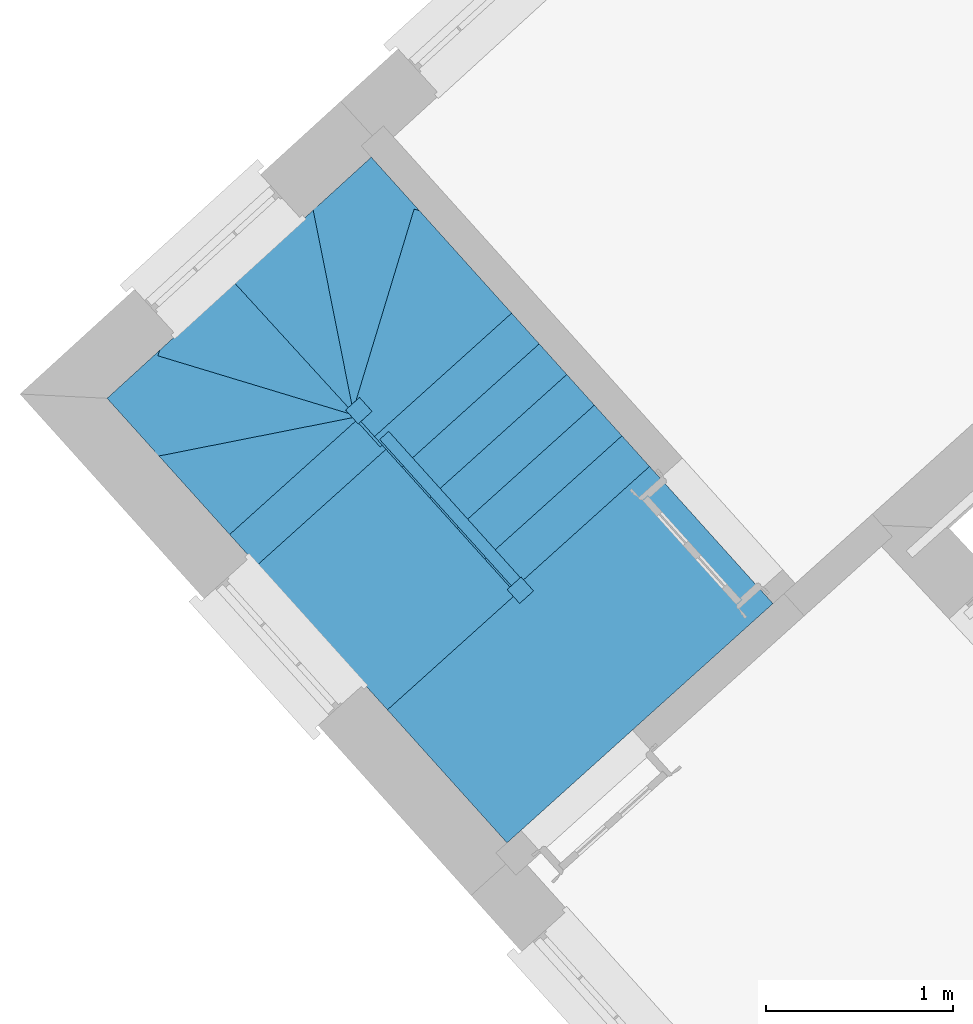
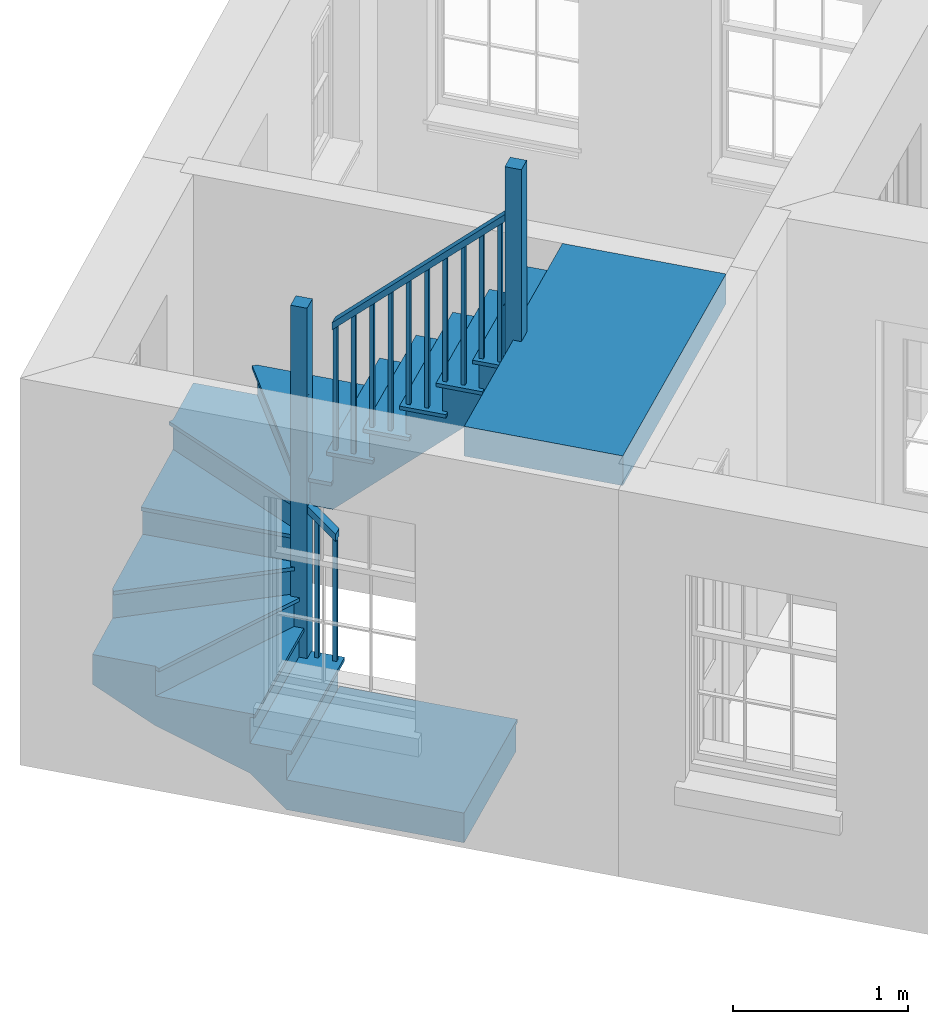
# One storey, part 7 of 7: 1 stair.
"""IFC4 building model written with IfcOpenShell, lengths in metres."""

import ifcopenshell
import ifcopenshell.guid

model = None  # the IFC model being written
_history = None  # IfcOwnerHistory: only IFC2X3 demands one
_inside = {}  # id of a spatial element -> (the spatial element, [elements in it])
_under = {}  # id of a project, library or spatial element -> (it, [spatial elements below it])
_declared = {}  # id of a project -> (the project, [libraries it declares])
_typed = {}  # id of a type object -> (the type object, [elements of that type])
_made_of = {}  # id of a material, layer set ... -> (it, [elements and type objects made of it])


def new_model(schema):
    """Start an empty IFC model of exactly this schema.

    Asked for "IFC4X3", IfcOpenShell would pick the latest addendum, in which some entities
    have other attributes; the version numbers below select the first issue.
    IFC2X3 requires an IfcOwnerHistory on every rooted entity: one is made here for all.
    """
    global model, _history
    if schema == "IFC4X3":
        model = ifcopenshell.file(schema_version=(4, 3, 0, 0))
    else:
        model = ifcopenshell.file(schema=schema)
    _inside.clear()
    _under.clear()
    _declared.clear()
    _typed.clear()
    _made_of.clear()
    _history = None
    if model.schema == "IFC2X3":
        org = make("IfcOrganization", Name="unknown")
        user = make(
            "IfcPersonAndOrganization",
            ThePerson=make("IfcPerson", FamilyName="unknown"),
            TheOrganization=org,
        )
        app = make(
            "IfcApplication",
            ApplicationDeveloper=org,
            Version="unknown",
            ApplicationFullName="unknown",
            ApplicationIdentifier="unknown",
        )
        _history = make(
            "IfcOwnerHistory",
            OwningUser=user,
            OwningApplication=app,
            ChangeAction="ADDED",
            CreationDate=0,
        )
    return model


def make(cls, **values):
    """One entity of the class cls with the attributes given. An attribute that is None is left unset."""
    return model.create_entity(
        cls, **{name: value for name, value in values.items() if value is not None}
    )


def rooted(cls, **values):
    """An entity with a GlobalId (a new one), such as an element, a storey or a relation."""
    return make(cls, GlobalId=ifcopenshell.guid.new(), OwnerHistory=_history, **values)


def si_unit(unit_type, name, prefix=None):
    """IfcSIUnit, for example si_unit("LENGTHUNIT", "METRE", prefix="MILLI")."""
    return make("IfcSIUnit", UnitType=unit_type, Prefix=prefix, Name=name)


def assignment(units):
    """IfcUnitAssignment: the units of a project."""
    return None if units is None else make("IfcUnitAssignment", Units=units)


def point(xyz):
    """IfcCartesianPoint."""
    return None if xyz is None else make("IfcCartesianPoint", Coordinates=xyz)


def direction(xyz):
    """IfcDirection."""
    return None if xyz is None else make("IfcDirection", DirectionRatios=xyz)


def frame(location, z_axis=None, x_axis=None):
    """IfcAxis2Placement3D, a coordinate frame: its origin and axes. An axis left out is left unset."""
    return make(
        "IfcAxis2Placement3D",
        Location=point(location),
        Axis=direction(z_axis),
        RefDirection=direction(x_axis),
    )


def origin():
    """The frame at (0, 0, 0) with its axes left unset."""
    return frame((0.0, 0.0, 0.0))


def origin_with_axes():
    """The frame at (0, 0, 0) with the z axis (0, 0, 1) and the x axis (1, 0, 0) written out."""
    return frame((0.0, 0.0, 0.0), z_axis=(0.0, 0.0, 1.0), x_axis=(1.0, 0.0, 0.0))


def place(relative_to, where):
    """IfcLocalPlacement: puts the frame where relative to a parent placement (None: the world)."""
    return make(
        "IfcLocalPlacement", PlacementRelTo=relative_to, RelativePlacement=where
    )


def context(
    kind, dimensions, precision=None, world=None, true_north=None, identifier=None
):
    """IfcGeometricRepresentationContext, for example the 3D "Model" context."""
    return make(
        "IfcGeometricRepresentationContext",
        ContextIdentifier=identifier,
        ContextType=kind,
        CoordinateSpaceDimension=dimensions,
        Precision=precision,
        WorldCoordinateSystem=world,
        TrueNorth=true_north,
    )


def subcontext(parent, identifier, kind, view, scale=None):
    """IfcGeometricRepresentationSubContext, for example "Body" below "Model"."""
    return make(
        "IfcGeometricRepresentationSubContext",
        ContextIdentifier=identifier,
        ContextType=kind,
        ParentContext=parent,
        TargetScale=scale,
        TargetView=view,
    )


def project(units=None, contexts=None):
    """IfcProject with its units and contexts."""
    return rooted(
        "IfcProject",
        Name="project",
        RepresentationContexts=contexts,
        UnitsInContext=assignment(units),
    )


def spatial(cls, under=None, at=None, **own):
    """A site, building, storey or space (cls), placed at a placement, below another one or the project."""
    s = rooted(cls, ObjectPlacement=at, **own)
    if under is not None:
        _under.setdefault(under.id(), (under, []))[1].append(s)
    return s


def faces_of(points, faces, orient=None, outer=None):
    """IfcFace entities. A face is a list of loops; a loop is a list of indices into points, from 0.

    orient and outer hold one flag for each loop. By default every Orientation is true, the
    first loop of a face is its IfcFaceOuterBound and the others are IfcFaceBound.
    """
    made = []
    for i, loops in enumerate(faces):
        bounds = []
        for j, loop in enumerate(loops):
            is_outer = j == 0 if outer is None else outer[i][j]
            bounds.append(
                make(
                    "IfcFaceOuterBound" if is_outer else "IfcFaceBound",
                    Bound=make("IfcPolyLoop", Polygon=[points[k] for k in loop]),
                    Orientation=True if orient is None else orient[i][j],
                )
            )
        made.append(make("IfcFace", Bounds=bounds))
    return made


def faceted_brep(points, faces, orient=None, outer=None, voids=None):
    """IfcFacetedBrep: a solid bounded by flat faces; with voids (closed shells), ...WithVoids."""
    shared = [point(p) for p in points]
    hull = make("IfcClosedShell", CfsFaces=faces_of(shared, faces, orient, outer))
    if voids is None:
        return make("IfcFacetedBrep", Outer=hull)
    return make(
        "IfcFacetedBrepWithVoids",
        Outer=hull,
        Voids=[
            make(cls, CfsFaces=faces_of(shared, fs, o, b)) for cls, fs, o, b in voids
        ],
    )


def shape(context_of_items, identifier, shape_type, items):
    """IfcShapeRepresentation: the items that make up one representation, for example the "Body"."""
    return make(
        "IfcShapeRepresentation",
        ContextOfItems=context_of_items,
        RepresentationIdentifier=identifier,
        RepresentationType=shape_type,
        Items=items,
    )


def made_of(thing, what):
    """Note that an element or type object is made of a material, layer set ...; save() writes the relation."""
    if what is not None:
        _made_of.setdefault(what.id(), (what, []))[1].append(thing)
    return thing


def element(
    cls,
    number,
    at=None,
    inside=None,
    cuts=None,
    type_object=None,
    material=None,
    context=None,
    identifier="Body",
    shape_type=None,
    held_by="IfcProductDefinitionShape",
    body=None,
    shapes=None,
    **own,
):
    """One element of the class cls, such as IfcWall. Its Tag is "e" and its number.

    at: its placement. inside: the storey or other place that contains it. cuts: it is an
    opening in that element (IfcRelVoidsElement). A single representation is given by context,
    identifier, shape_type and body (its items); several are given by shapes. held_by: the class
    of the entity that holds the representations. save() writes the other relations.
    """
    e = rooted(cls, Tag="e%d" % number, ObjectPlacement=at, **own)
    if body is not None:
        shapes = [shape(context, identifier, shape_type, body)]
    if shapes is not None:
        e.Representation = make(held_by, Representations=shapes)
    if inside is not None:
        _inside.setdefault(inside.id(), (inside, []))[1].append(e)
    if cuts is not None:
        rooted(
            "IfcRelVoidsElement", RelatingBuildingElement=cuts, RelatedOpeningElement=e
        )
    if type_object is not None:
        _typed.setdefault(type_object.id(), (type_object, []))[1].append(e)
    return made_of(e, material)


def aggregate(whole, parts):
    """IfcRelAggregates: a whole, such as a stair, and the parts it consists of."""
    return rooted("IfcRelAggregates", RelatingObject=whole, RelatedObjects=parts)


def save(model, path):
    """Write the relations noted so far, then the file.

    IfcRelAggregates (storeys below a building ...), IfcRelContainedInSpatialStructure (elements
    in a storey), IfcRelDefinesByType, IfcRelAssociatesMaterial and IfcRelDeclares: one each for
    every whole, place, type object, material and project.
    """
    for whole, parts in _under.values():
        aggregate(whole, parts)
    for where, things in _inside.values():
        rooted(
            "IfcRelContainedInSpatialStructure",
            RelatedElements=things,
            RelatingStructure=where,
        )
    for kind, things in _typed.values():
        rooted("IfcRelDefinesByType", RelatedObjects=things, RelatingType=kind)
    for what, things in _made_of.values():
        rooted("IfcRelAssociatesMaterial", RelatedObjects=things, RelatingMaterial=what)
    for by, libraries in _declared.values():
        rooted("IfcRelDeclares", RelatingContext=by, RelatedDefinitions=libraries)
    model.write(path)


model = new_model("IFC4")

# Units and contexts
model_context = context("Model", 3, world=origin_with_axes())
body_context = subcontext(model_context, "Body", "Model", "MODEL_VIEW")
ifc_project = project(units=[si_unit("PLANEANGLEUNIT", "RADIAN"), si_unit("MASSUNIT", "GRAM", prefix="KILO"), si_unit("FORCEUNIT", "NEWTON", prefix="KILO"), si_unit("LENGTHUNIT", "METRE"), si_unit("AREAUNIT", "SQUARE_METRE"), si_unit("VOLUMEUNIT", "CUBIC_METRE")], contexts=[model_context, model_context])

# Sites, building, storey
site_1_placement = place(None, origin_with_axes())
site_1 = spatial("IfcSite", under=ifc_project, at=site_1_placement, Name="Tamar")
site_2_placement = place(site_1_placement, origin_with_axes())
site_2 = spatial("IfcSite", under=site_1, at=site_2_placement, Name="Site plot-7", CompositionType="ELEMENT")
building_placement = place(None, origin_with_axes())
building = spatial("IfcBuilding", under=site_2, at=building_placement, Name="Building plot-7", CompositionType="ELEMENT")
storey_placement = place(None, frame((0.0, 0.0, 29.15), z_axis=(0.0, 0.0, 1.0), x_axis=(1.0, 0.0, 0.0)))
storey = spatial("IfcBuildingStorey", under=building, at=storey_placement, Name="plot-7 1", CompositionType="ELEMENT", Elevation=29.15)

# Stair
stair_placement = place(None, origin())
element("IfcStair", 1, at=stair_placement, inside=storey, Name="Stair", PredefinedType="NOTDEFINED", context=body_context, shape_type="Brep", body=[
    faceted_brep([(241.789682, 286.104978, 31.642308), (242.499166, 286.743323, 31.642308), (242.352018, 286.906869, 31.642308), (241.642534, 286.268525, 31.642308), (241.642534, 286.268525, 31.226923), (242.352018, 286.906869, 31.226923), (242.499166, 286.743323, 31.434615), (241.789682, 286.104978, 31.434615)], [[[0, 1, 2, 3]], [[4, 5, 6, 7]], [[7, 6, 1, 0]], [[1, 6, 5, 2]], [[5, 4, 3, 2]], [[3, 4, 7, 0]]]),
    faceted_brep([(242.352018, 286.906869, 31.617308), (242.331953, 286.929171, 31.617308), (242.352018, 286.906869, 31.642308), (242.519232, 286.721021, 31.617308), (242.499166, 286.743323, 31.617308), (242.499166, 286.743323, 31.642308), (242.331953, 286.929171, 31.642308), (242.519232, 286.721021, 31.642308), (241.600167, 286.270761, 31.642308), (241.642534, 286.268525, 31.642308), (241.642534, 286.268525, 31.617308), (241.600167, 286.270761, 31.617308), (241.787446, 286.062611, 31.642308), (241.789682, 286.104978, 31.642308), (241.789682, 286.104978, 31.617308), (241.787446, 286.062611, 31.617308)], [[[0, 1, 2]], [[3, 4, 5]], [[1, 6, 2]], [[7, 3, 5]], [[2, 6, 8, 9]], [[0, 2, 9, 10]], [[1, 0, 10, 11]], [[6, 1, 11, 8]], [[9, 8, 12, 13]], [[10, 9, 13, 14]], [[11, 10, 14, 15]], [[8, 11, 15, 12]], [[13, 12, 7, 5]], [[14, 13, 5, 4]], [[15, 14, 4, 3]], [[12, 15, 3, 7]]]),
    faceted_brep([(241.642534, 286.268525, 32.542308), (241.659255, 286.24994, 32.542308), (241.67784, 286.266662, 32.542308), (241.661119, 286.285246, 32.542308), (241.661119, 286.285246, 31.642308), (241.67784, 286.266662, 31.642308), (241.659255, 286.24994, 31.642308), (241.642534, 286.268525, 31.642308)], [[[0, 1, 2, 3]], [[4, 5, 6, 7]], [[7, 6, 1, 0]], [[6, 5, 2, 1]], [[5, 4, 3, 2]], [[4, 7, 0, 3]]]),
    faceted_brep([(241.716108, 286.186752, 32.646154), (241.732829, 286.168167, 32.646154), (241.751414, 286.184888, 32.646154), (241.734693, 286.203473, 32.646154), (241.734693, 286.203473, 31.642308), (241.751414, 286.184888, 31.642308), (241.732829, 286.168167, 31.642308), (241.716108, 286.186752, 31.642308)], [[[0, 1, 2, 3]], [[4, 5, 6, 7]], [[7, 6, 1, 0]], [[6, 5, 2, 1]], [[5, 4, 3, 2]], [[4, 7, 0, 3]]]),
    faceted_brep([(241.675987, 286.298624, 32.492308), (241.627666, 286.255148, 32.492308), (241.627666, 286.255148, 32.542308), (241.675987, 286.298624, 32.542308), (241.774814, 286.091601, 32.7), (241.823135, 286.135077, 32.7), (241.823135, 286.135077, 32.75), (241.774814, 286.091601, 32.75)], [[[0, 1, 2, 3]], [[4, 5, 6, 7]], [[0, 5, 4, 1]], [[3, 2, 7, 6]], [[0, 3, 6, 5]], [[2, 1, 4, 7]]]),
    faceted_brep([(241.642534, 286.268525, 31.434615), (242.352018, 286.906869, 31.434615), (242.204871, 287.070416, 31.434615), (241.495386, 286.432072, 31.434615), (241.495386, 286.432072, 31.019231), (242.204871, 287.070416, 31.019231), (242.352018, 286.906869, 31.226923), (241.642534, 286.268525, 31.226923)], [[[0, 1, 2, 3]], [[4, 5, 6, 7]], [[7, 6, 1, 0]], [[1, 6, 5, 2]], [[5, 4, 3, 2]], [[3, 4, 7, 0]]]),
    faceted_brep([(242.204871, 287.070416, 31.409615), (242.184805, 287.092718, 31.409615), (242.204871, 287.070416, 31.434615), (242.372084, 286.884567, 31.409615), (242.352018, 286.906869, 31.409615), (242.352018, 286.906869, 31.434615), (242.184805, 287.092718, 31.434615), (242.372084, 286.884567, 31.434615), (241.453019, 286.434308, 31.434615), (241.495386, 286.432072, 31.434615), (241.495386, 286.432072, 31.409615), (241.453019, 286.434308, 31.409615), (241.640298, 286.226158, 31.434615), (241.642534, 286.268525, 31.434615), (241.642534, 286.268525, 31.409615), (241.640298, 286.226158, 31.409615)], [[[0, 1, 2]], [[3, 4, 5]], [[1, 6, 2]], [[7, 3, 5]], [[2, 6, 8, 9]], [[0, 2, 9, 10]], [[1, 0, 10, 11]], [[6, 1, 11, 8]], [[9, 8, 12, 13]], [[10, 9, 13, 14]], [[11, 10, 14, 15]], [[8, 11, 15, 12]], [[13, 12, 7, 5]], [[14, 13, 5, 4]], [[15, 14, 4, 3]], [[12, 15, 3, 7]]]),
    faceted_brep([(241.495386, 286.432072, 32.334615), (241.512108, 286.413487, 32.334615), (241.530693, 286.430208, 32.334615), (241.513971, 286.448793, 32.334615), (241.513971, 286.448793, 31.434615), (241.530693, 286.430208, 31.434615), (241.512108, 286.413487, 31.434615), (241.495386, 286.432072, 31.434615)], [[[0, 1, 2, 3]], [[4, 5, 6, 7]], [[7, 6, 1, 0]], [[6, 5, 2, 1]], [[5, 4, 3, 2]], [[4, 7, 0, 3]]]),
    faceted_brep([(241.56896, 286.350298, 32.438462), (241.585682, 286.331714, 32.438462), (241.604266, 286.348435, 32.438462), (241.587545, 286.36702, 32.438462), (241.587545, 286.36702, 31.434615), (241.604266, 286.348435, 31.434615), (241.585682, 286.331714, 31.434615), (241.56896, 286.350298, 31.434615)], [[[0, 1, 2, 3]], [[4, 5, 6, 7]], [[7, 6, 1, 0]], [[6, 5, 2, 1]], [[5, 4, 3, 2]], [[4, 7, 0, 3]]]),
    faceted_brep([(241.528839, 286.46217, 32.284615), (241.480518, 286.418695, 32.284615), (241.480518, 286.418695, 32.334615), (241.528839, 286.46217, 32.334615), (241.627666, 286.255148, 32.492308), (241.675987, 286.298624, 32.492308), (241.675987, 286.298624, 32.542308), (241.627666, 286.255148, 32.542308)], [[[0, 1, 2, 3]], [[4, 5, 6, 7]], [[0, 5, 4, 1]], [[3, 2, 7, 6]], [[0, 3, 6, 5]], [[2, 1, 4, 7]]]),
    faceted_brep([(241.495386, 286.432072, 31.226923), (242.204871, 287.070416, 31.226923), (242.057723, 287.233963, 31.226923), (241.348239, 286.595619, 31.226923), (241.348239, 286.595619, 30.811538), (242.057723, 287.233963, 30.811538), (242.204871, 287.070416, 31.019231), (241.495386, 286.432072, 31.019231)], [[[0, 1, 2, 3]], [[4, 5, 6, 7]], [[7, 6, 1, 0]], [[1, 6, 5, 2]], [[5, 4, 3, 2]], [[3, 4, 7, 0]]]),
    faceted_brep([(242.057723, 287.233963, 31.201923), (242.037657, 287.256264, 31.201923), (242.057723, 287.233963, 31.226923), (242.224936, 287.048114, 31.201923), (242.204871, 287.070416, 31.201923), (242.204871, 287.070416, 31.226923), (242.037657, 287.256264, 31.226923), (242.224936, 287.048114, 31.226923), (241.305871, 286.597855, 31.226923), (241.348239, 286.595619, 31.226923), (241.348239, 286.595619, 31.201923), (241.305871, 286.597855, 31.201923), (241.49315, 286.389704, 31.226923), (241.495386, 286.432072, 31.226923), (241.495386, 286.432072, 31.201923), (241.49315, 286.389704, 31.201923)], [[[0, 1, 2]], [[3, 4, 5]], [[1, 6, 2]], [[7, 3, 5]], [[2, 6, 8, 9]], [[0, 2, 9, 10]], [[1, 0, 10, 11]], [[6, 1, 11, 8]], [[9, 8, 12, 13]], [[10, 9, 13, 14]], [[11, 10, 14, 15]], [[8, 11, 15, 12]], [[13, 12, 7, 5]], [[14, 13, 5, 4]], [[15, 14, 4, 3]], [[12, 15, 3, 7]]]),
    faceted_brep([(241.348239, 286.595619, 32.126923), (241.36496, 286.577034, 32.126923), (241.383545, 286.593755, 32.126923), (241.366823, 286.61234, 32.126923), (241.366823, 286.61234, 31.226923), (241.383545, 286.593755, 31.226923), (241.36496, 286.577034, 31.226923), (241.348239, 286.595619, 31.226923)], [[[0, 1, 2, 3]], [[4, 5, 6, 7]], [[7, 6, 1, 0]], [[6, 5, 2, 1]], [[5, 4, 3, 2]], [[4, 7, 0, 3]]]),
    faceted_brep([(241.421812, 286.513845, 32.230769), (241.438534, 286.49526, 32.230769), (241.457119, 286.511982, 32.230769), (241.440397, 286.530567, 32.230769), (241.440397, 286.530567, 31.226923), (241.457119, 286.511982, 31.226923), (241.438534, 286.49526, 31.226923), (241.421812, 286.513845, 31.226923)], [[[0, 1, 2, 3]], [[4, 5, 6, 7]], [[7, 6, 1, 0]], [[6, 5, 2, 1]], [[5, 4, 3, 2]], [[4, 7, 0, 3]]]),
    faceted_brep([(241.381691, 286.625717, 32.076923), (241.333371, 286.582241, 32.076923), (241.333371, 286.582241, 32.126923), (241.381691, 286.625717, 32.126923), (241.480518, 286.418695, 32.284615), (241.528839, 286.46217, 32.284615), (241.528839, 286.46217, 32.334615), (241.480518, 286.418695, 32.334615)], [[[0, 1, 2, 3]], [[4, 5, 6, 7]], [[0, 5, 4, 1]], [[3, 2, 7, 6]], [[0, 3, 6, 5]], [[2, 1, 4, 7]]]),
    faceted_brep([(241.348239, 286.595619, 31.019231), (242.057723, 287.233963, 31.019231), (241.910575, 287.397509, 31.019231), (241.201091, 286.759165, 31.019231), (241.201091, 286.759165, 30.603846), (241.910575, 287.397509, 30.603846), (242.057723, 287.233963, 30.811538), (241.348239, 286.595619, 30.811538)], [[[0, 1, 2, 3]], [[4, 5, 6, 7]], [[7, 6, 1, 0]], [[1, 6, 5, 2]], [[5, 4, 3, 2]], [[3, 4, 7, 0]]]),
    faceted_brep([(241.890509, 287.419811, 30.994231), (241.890509, 287.419811, 31.019231), (241.910575, 287.397509, 30.994231), (242.077788, 287.211661, 31.019231), (242.077788, 287.211661, 30.994231), (242.057723, 287.233963, 30.994231), (241.910575, 287.397509, 31.019231), (242.057723, 287.233963, 31.019231), (241.158723, 286.761401, 31.019231), (241.201091, 286.759165, 31.019231), (241.201091, 286.759165, 30.994231), (241.158723, 286.761401, 30.994231), (241.346002, 286.553251, 31.019231), (241.348239, 286.595619, 31.019231), (241.348239, 286.595619, 30.994231), (241.346002, 286.553251, 30.994231)], [[[0, 1, 2]], [[3, 4, 5]], [[2, 1, 6]], [[3, 5, 7]], [[6, 1, 8, 9]], [[2, 6, 9, 10]], [[0, 2, 10, 11]], [[1, 0, 11, 8]], [[9, 8, 12, 13]], [[10, 9, 13, 14]], [[11, 10, 14, 15]], [[8, 11, 15, 12]], [[13, 12, 3, 7]], [[14, 13, 7, 5]], [[15, 14, 5, 4]], [[12, 15, 4, 3]]]),
    faceted_brep([(241.201091, 286.759165, 31.919231), (241.217812, 286.74058, 31.919231), (241.236397, 286.757302, 31.919231), (241.219676, 286.775887, 31.919231), (241.219676, 286.775887, 31.019231), (241.236397, 286.757302, 31.019231), (241.217812, 286.74058, 31.019231), (241.201091, 286.759165, 31.019231)], [[[0, 1, 2, 3]], [[4, 5, 6, 7]], [[7, 6, 1, 0]], [[6, 5, 2, 1]], [[5, 4, 3, 2]], [[4, 7, 0, 3]]]),
    faceted_brep([(241.274665, 286.677392, 32.023077), (241.291386, 286.658807, 32.023077), (241.309971, 286.675528, 32.023077), (241.293249, 286.694113, 32.023077), (241.293249, 286.694113, 31.019231), (241.309971, 286.675528, 31.019231), (241.291386, 286.658807, 31.019231), (241.274665, 286.677392, 31.019231)], [[[0, 1, 2, 3]], [[4, 5, 6, 7]], [[7, 6, 1, 0]], [[6, 5, 2, 1]], [[5, 4, 3, 2]], [[4, 7, 0, 3]]]),
    faceted_brep([(241.234543, 286.789264, 31.869231), (241.186223, 286.745788, 31.869231), (241.186223, 286.745788, 31.919231), (241.234543, 286.789264, 31.919231), (241.333371, 286.582241, 32.076923), (241.381691, 286.625717, 32.076923), (241.381691, 286.625717, 32.126923), (241.333371, 286.582241, 32.126923)], [[[0, 1, 2, 3]], [[4, 5, 6, 7]], [[0, 5, 4, 1]], [[3, 2, 7, 6]], [[0, 3, 6, 5]], [[2, 1, 4, 7]]]),
    faceted_brep([(241.201091, 286.759165, 30.811538), (241.910575, 287.397509, 30.811538), (241.763427, 287.561056, 30.811538), (241.053943, 286.922712, 30.811538), (241.053943, 286.922712, 30.396154), (241.763427, 287.561056, 30.396154), (241.910575, 287.397509, 30.603846), (241.201091, 286.759165, 30.603846)], [[[0, 1, 2, 3]], [[4, 5, 6, 7]], [[7, 6, 1, 0]], [[1, 6, 5, 2]], [[5, 4, 3, 2]], [[3, 4, 7, 0]]]),
    faceted_brep([(241.743362, 287.583358, 30.786538), (241.743362, 287.583358, 30.811538), (241.763427, 287.561056, 30.786538), (241.930641, 287.375207, 30.811538), (241.930641, 287.375207, 30.786538), (241.910575, 287.397509, 30.786538), (241.763427, 287.561056, 30.811538), (241.910575, 287.397509, 30.811538), (241.011575, 286.924948, 30.811538), (241.053943, 286.922712, 30.811538), (241.053943, 286.922712, 30.786538), (241.011575, 286.924948, 30.786538), (241.198854, 286.716798, 30.811538), (241.201091, 286.759165, 30.811538), (241.201091, 286.759165, 30.786538), (241.198854, 286.716798, 30.786538)], [[[0, 1, 2]], [[3, 4, 5]], [[2, 1, 6]], [[3, 5, 7]], [[6, 1, 8, 9]], [[2, 6, 9, 10]], [[0, 2, 10, 11]], [[1, 0, 11, 8]], [[9, 8, 12, 13]], [[10, 9, 13, 14]], [[11, 10, 14, 15]], [[8, 11, 15, 12]], [[13, 12, 3, 7]], [[14, 13, 7, 5]], [[15, 14, 5, 4]], [[12, 15, 4, 3]]]),
    faceted_brep([(241.053943, 286.922712, 31.711538), (241.070664, 286.904127, 31.711538), (241.089249, 286.920848, 31.711538), (241.072528, 286.939433, 31.711538), (241.072528, 286.939433, 30.811538), (241.089249, 286.920848, 30.811538), (241.070664, 286.904127, 30.811538), (241.053943, 286.922712, 30.811538)], [[[0, 1, 2, 3]], [[4, 5, 6, 7]], [[7, 6, 1, 0]], [[6, 5, 2, 1]], [[5, 4, 3, 2]], [[4, 7, 0, 3]]]),
    faceted_brep([(241.127517, 286.840939, 31.815385), (241.144238, 286.822354, 31.815385), (241.162823, 286.839075, 31.815385), (241.146102, 286.85766, 31.815385), (241.146102, 286.85766, 30.811538), (241.162823, 286.839075, 30.811538), (241.144238, 286.822354, 30.811538), (241.127517, 286.840939, 30.811538)], [[[0, 1, 2, 3]], [[4, 5, 6, 7]], [[7, 6, 1, 0]], [[6, 5, 2, 1]], [[5, 4, 3, 2]], [[4, 7, 0, 3]]]),
    faceted_brep([(241.087396, 286.95281, 31.661538), (241.039075, 286.909335, 31.661538), (241.039075, 286.909335, 31.711538), (241.087396, 286.95281, 31.711538), (241.186223, 286.745788, 31.869231), (241.234543, 286.789264, 31.869231), (241.234543, 286.789264, 31.919231), (241.186223, 286.745788, 31.919231)], [[[0, 1, 2, 3]], [[4, 5, 6, 7]], [[0, 5, 4, 1]], [[3, 2, 7, 6]], [[0, 3, 6, 5]], [[2, 1, 4, 7]]]),
    faceted_brep([(241.053943, 286.922712, 30.603846), (241.763427, 287.561056, 30.603846), (241.637337, 287.701198, 30.603846), (240.927853, 287.062854, 30.603846), (240.927853, 287.062854, 30.396154), (241.637337, 287.701198, 30.396154), (241.763427, 287.561056, 30.396154), (241.053943, 286.922712, 30.396154)], [[[0, 1, 2, 3]], [[4, 5, 6, 7]], [[7, 6, 1, 0]], [[6, 5, 2, 1]], [[5, 4, 3, 2]], [[4, 7, 0, 3]]]),
    faceted_brep([(240.927853, 287.062854, 30.578846), (240.905551, 287.042788, 30.578846), (240.927853, 287.062854, 30.603846), (241.031641, 286.902646, 30.578846), (241.053943, 286.922712, 30.578846), (241.053943, 286.922712, 30.603846), (240.905551, 287.042788, 30.603846), (241.031641, 286.902646, 30.603846)], [[[0, 1, 2]], [[3, 4, 5]], [[1, 6, 2]], [[7, 3, 5]], [[2, 6, 7, 5]], [[0, 2, 5, 4]], [[1, 0, 4, 3]], [[6, 1, 3, 7]]]),
    faceted_brep([(240.857241, 287.066581, 31.803846), (240.924126, 286.992241, 31.803846), (240.998465, 287.059127, 31.803846), (240.93158, 287.133466, 31.803846), (240.93158, 287.133466, 30.603846), (240.998465, 287.059127, 30.603846), (240.924126, 286.992241, 30.603846), (240.857241, 287.066581, 30.603846)], [[[0, 1, 2, 3]], [[4, 5, 6, 7]], [[7, 6, 1, 0]], [[6, 5, 2, 1]], [[5, 4, 3, 2]], [[4, 7, 0, 3]]]),
    faceted_brep([(241.637337, 287.701198, 30.603846), (241.251594, 288.129931, 30.603846), (240.927853, 287.062854, 30.603846), (240.927853, 287.062854, 30.188462), (241.251594, 288.129931, 30.188462), (241.637337, 287.701198, 30.396154)], [[[0, 1, 2]], [[3, 4, 5]], [[0, 5, 4, 1]], [[4, 3, 2, 1]], [[2, 3, 5, 0]]]),
    faceted_brep([(241.222886, 288.13864, 30.578846), (241.222886, 288.13864, 30.603846), (241.251594, 288.129931, 30.578846), (240.899145, 287.071563, 30.603846), (240.899145, 287.071563, 30.578846), (240.927853, 287.062854, 30.578846), (241.251594, 288.129931, 30.603846), (240.927853, 287.062854, 30.603846)], [[[0, 1, 2]], [[3, 4, 5]], [[2, 1, 6]], [[3, 5, 7]], [[6, 1, 3, 7]], [[2, 6, 7, 5]], [[0, 2, 5, 4]], [[1, 0, 4, 3]]]),
    faceted_brep([(241.251594, 288.129931, 30.396154), (240.994431, 288.415752, 30.396154), (240.710448, 288.156561, 30.396154), (240.927853, 287.062854, 30.396154), (240.927853, 287.062854, 29.980769), (240.710448, 288.156561, 29.980769), (240.994431, 288.415752, 30.188462), (241.251594, 288.129931, 30.188462)], [[[0, 1, 2, 3]], [[4, 5, 6, 7]], [[7, 6, 1, 0]], [[1, 6, 5, 2]], [[5, 4, 3, 2]], [[3, 4, 7, 0]]]),
    faceted_brep([(240.681024, 288.150712, 30.371154), (240.681024, 288.150712, 30.396154), (240.710448, 288.156561, 30.371154), (240.898429, 287.057005, 30.396154), (240.898429, 287.057005, 30.371154), (240.927853, 287.062854, 30.371154), (240.710448, 288.156561, 30.396154), (240.927853, 287.062854, 30.396154)], [[[0, 1, 2]], [[3, 4, 5]], [[2, 1, 6]], [[3, 5, 7]], [[6, 1, 3, 7]], [[2, 6, 7, 5]], [[0, 2, 5, 4]], [[1, 0, 4, 3]]]),
    faceted_brep([(240.710448, 288.156561, 30.188462), (240.284473, 287.767775, 30.188462), (240.927853, 287.062854, 30.188462), (240.927853, 287.062854, 29.773077), (240.284473, 287.767775, 29.773077), (240.710448, 288.156561, 29.980769)], [[[0, 1, 2]], [[3, 4, 5]], [[0, 5, 4, 1]], [[4, 3, 2, 1]], [[2, 3, 5, 0]]]),
    faceted_brep([(240.284473, 287.767775, 30.163462), (240.262315, 287.747551, 30.163462), (240.284473, 287.767775, 30.188462), (240.905695, 287.04263, 30.163462), (240.927853, 287.062854, 30.163462), (240.927853, 287.062854, 30.188462), (240.262315, 287.747551, 30.188462), (240.905695, 287.04263, 30.188462)], [[[0, 1, 2]], [[3, 4, 5]], [[1, 6, 2]], [[7, 3, 5]], [[2, 6, 7, 5]], [[0, 2, 5, 4]], [[1, 0, 4, 3]], [[6, 1, 3, 7]]]),
    faceted_brep([(240.857241, 287.066581, 30.603846), (240.924126, 286.992241, 30.603846), (240.998465, 287.059127, 30.603846), (240.93158, 287.133466, 30.603846), (240.93158, 287.133466, 29.688462), (240.998465, 287.059127, 29.688462), (240.924126, 286.992241, 29.688462), (240.857241, 287.066581, 29.688462)], [[[0, 1, 2, 3]], [[4, 5, 6, 7]], [[7, 6, 1, 0]], [[6, 5, 2, 1]], [[5, 4, 3, 2]], [[4, 7, 0, 3]]]),
    faceted_brep([(240.927853, 287.062854, 29.773077), (240.284473, 287.767775, 29.773077), (240.284473, 287.767775, 29.980769), (240.927853, 287.062854, 29.980769)], [[[0, 1, 2, 3]], [[1, 0, 3, 2]]]),
    faceted_brep([(240.927853, 287.062854, 29.955769), (240.95043, 287.043099, 29.955769), (240.927853, 287.062854, 29.980769), (240.95043, 287.043099, 29.980769)], [[[0, 1, 2]], [[1, 0, 2]], [[1, 3, 2]], [[3, 1, 2]]]),
    faceted_brep([(240.924629, 286.992217, 31.180769), (240.99849, 287.05963, 31.180769), (240.931077, 287.133491, 31.180769), (240.857216, 287.066078, 31.180769), (240.857216, 287.066078, 29.980769), (240.931077, 287.133491, 29.980769), (240.99849, 287.05963, 29.980769), (240.924629, 286.992217, 29.980769)], [[[0, 1, 2, 3]], [[4, 5, 6, 7]], [[7, 6, 1, 0]], [[6, 5, 2, 1]], [[5, 4, 3, 2]], [[4, 7, 0, 3]]]),
    faceted_brep([(240.284473, 287.767775, 29.980769), (239.864522, 287.384486, 29.980769), (240.927853, 287.062854, 29.980769), (240.927853, 287.062854, 29.565385), (239.864522, 287.384486, 29.565385), (240.284473, 287.767775, 29.773077)], [[[0, 1, 2]], [[3, 4, 5]], [[0, 5, 4, 1]], [[4, 3, 2, 1]], [[2, 3, 5, 0]]]),
    faceted_brep([(239.864522, 287.384486, 29.955769), (239.855836, 287.35577, 29.955769), (239.864522, 287.384486, 29.980769), (240.919167, 287.034139, 29.955769), (240.927853, 287.062854, 29.955769), (240.927853, 287.062854, 29.980769), (239.855836, 287.35577, 29.980769), (240.919167, 287.034139, 29.980769)], [[[0, 1, 2]], [[3, 4, 5]], [[1, 6, 2]], [[7, 3, 5]], [[2, 6, 7, 5]], [[0, 2, 5, 4]], [[1, 0, 4, 3]], [[6, 1, 3, 7]]]),
    faceted_brep([(239.864522, 287.384486, 29.773077), (239.584554, 287.12896, 29.773077), (239.83808, 286.84718, 29.773077), (240.927853, 287.062854, 29.773077), (240.927853, 287.062854, 29.357692), (239.83808, 286.84718, 29.357692), (239.584554, 287.12896, 29.565385), (239.864522, 287.384486, 29.565385)], [[[0, 1, 2, 3]], [[4, 5, 6, 7]], [[7, 6, 1, 0]], [[1, 6, 5, 2]], [[5, 4, 3, 2]], [[3, 4, 7, 0]]]),
    faceted_brep([(239.83808, 286.84718, 29.748077), (239.843904, 286.81775, 29.748077), (239.83808, 286.84718, 29.773077), (240.933677, 287.033425, 29.748077), (240.927853, 287.062854, 29.748077), (240.927853, 287.062854, 29.773077), (239.843904, 286.81775, 29.773077), (240.933677, 287.033425, 29.773077)], [[[0, 1, 2]], [[3, 4, 5]], [[1, 6, 2]], [[7, 3, 5]], [[2, 6, 7, 5]], [[0, 2, 5, 4]], [[1, 0, 4, 3]], [[6, 1, 3, 7]]]),
    faceted_brep([(239.83808, 286.84718, 29.565385), (240.218369, 286.42451, 29.565385), (240.927853, 287.062854, 29.565385), (240.927853, 287.062854, 29.15), (240.218369, 286.42451, 29.15), (239.83808, 286.84718, 29.357692)], [[[0, 1, 2]], [[3, 4, 5]], [[0, 5, 4, 1]], [[4, 3, 2, 1]], [[2, 3, 5, 0]]]),
    faceted_brep([(240.218369, 286.42451, 29.540385), (240.238434, 286.402208, 29.540385), (240.218369, 286.42451, 29.565385), (240.947919, 287.040552, 29.540385), (240.927853, 287.062854, 29.540385), (240.927853, 287.062854, 29.565385), (240.238434, 286.402208, 29.565385), (240.947919, 287.040552, 29.565385)], [[[0, 1, 2]], [[3, 4, 5]], [[1, 6, 2]], [[7, 3, 5]], [[2, 6, 7, 5]], [[0, 2, 5, 4]], [[1, 0, 4, 3]], [[6, 1, 3, 7]]]),
    faceted_brep([(240.924629, 286.992217, 29.980769), (240.99849, 287.05963, 29.980769), (240.931077, 287.133491, 29.980769), (240.857216, 287.066078, 29.980769), (240.857216, 287.066078, 29.065385), (240.931077, 287.133491, 29.065385), (240.99849, 287.05963, 29.065385), (240.924629, 286.992217, 29.065385)], [[[0, 1, 2, 3]], [[4, 5, 6, 7]], [[7, 6, 1, 0]], [[6, 5, 2, 1]], [[5, 4, 3, 2]], [[4, 7, 0, 3]]]),
    faceted_brep([(240.927853, 287.062854, 29.357692), (240.218369, 286.42451, 29.357692), (240.365517, 286.260963, 29.357692), (241.075001, 286.899307, 29.357692), (241.075001, 286.899307, 28.942308), (240.365517, 286.260963, 28.942308), (240.218369, 286.42451, 29.15), (240.927853, 287.062854, 29.15)], [[[0, 1, 2, 3]], [[4, 5, 6, 7]], [[7, 6, 1, 0]], [[1, 6, 5, 2]], [[5, 4, 3, 2]], [[3, 4, 7, 0]]]),
    faceted_brep([(240.385582, 286.238661, 29.332692), (240.385582, 286.238661, 29.357692), (240.365517, 286.260963, 29.332692), (240.198303, 286.446812, 29.357692), (240.198303, 286.446812, 29.332692), (240.218369, 286.42451, 29.332692), (240.365517, 286.260963, 29.357692), (240.218369, 286.42451, 29.357692), (241.117368, 286.897071, 29.357692), (241.075001, 286.899307, 29.357692), (241.075001, 286.899307, 29.332692), (241.117368, 286.897071, 29.332692), (240.930089, 287.105221, 29.357692), (240.927853, 287.062854, 29.357692), (240.927853, 287.062854, 29.332692), (240.930089, 287.105221, 29.332692)], [[[0, 1, 2]], [[3, 4, 5]], [[2, 1, 6]], [[3, 5, 7]], [[6, 1, 8, 9]], [[2, 6, 9, 10]], [[0, 2, 10, 11]], [[1, 0, 11, 8]], [[9, 8, 12, 13]], [[10, 9, 13, 14]], [[11, 10, 14, 15]], [[8, 11, 15, 12]], [[13, 12, 3, 7]], [[14, 13, 7, 5]], [[15, 14, 5, 4]], [[12, 15, 4, 3]]]),
    faceted_brep([(241.075001, 286.899307, 30.257692), (241.05828, 286.917892, 30.257692), (241.039695, 286.901171, 30.257692), (241.056416, 286.882586, 30.257692), (241.056416, 286.882586, 29.357692), (241.039695, 286.901171, 29.357692), (241.05828, 286.917892, 29.357692), (241.075001, 286.899307, 29.357692)], [[[0, 1, 2, 3]], [[4, 5, 6, 7]], [[7, 6, 1, 0]], [[6, 5, 2, 1]], [[5, 4, 3, 2]], [[4, 7, 0, 3]]]),
    faceted_brep([(241.001427, 286.98108, 30.361538), (240.984706, 286.999665, 30.361538), (240.966121, 286.982944, 30.361538), (240.982842, 286.964359, 30.361538), (240.982842, 286.964359, 29.357692), (240.966121, 286.982944, 29.357692), (240.984706, 286.999665, 29.357692), (241.001427, 286.98108, 29.357692)], [[[0, 1, 2, 3]], [[4, 5, 6, 7]], [[7, 6, 1, 0]], [[6, 5, 2, 1]], [[5, 4, 3, 2]], [[4, 7, 0, 3]]]),
    faceted_brep([(241.041548, 286.869209, 30.207692), (241.089869, 286.912684, 30.207692), (241.089869, 286.912684, 30.257692), (241.041548, 286.869209, 30.257692), (240.942721, 287.076231, 30.415385), (240.8944, 287.032755, 30.415385), (240.8944, 287.032755, 30.465385), (240.942721, 287.076231, 30.465385)], [[[0, 1, 2, 3]], [[4, 5, 6, 7]], [[0, 5, 4, 1]], [[3, 2, 7, 6]], [[0, 3, 6, 5]], [[2, 1, 4, 7]]]),
    faceted_brep([(241.075001, 286.899307, 29.15), (240.365517, 286.260963, 29.15), (241.080198, 285.466634, 29.15), (241.789682, 286.104978, 29.15), (241.789682, 286.104978, 28.942308), (241.080198, 285.466634, 28.942308), (240.365517, 286.260963, 28.942308), (241.075001, 286.899307, 28.942308)], [[[0, 1, 2, 3]], [[4, 5, 6, 7]], [[7, 6, 1, 0]], [[6, 5, 2, 1]], [[5, 4, 3, 2]], [[4, 7, 0, 3]]]),
    faceted_brep([(241.811984, 286.125044, 29.125), (241.811984, 286.125044, 29.15), (241.789682, 286.104978, 29.125), (241.097303, 286.919373, 29.15), (241.097303, 286.919373, 29.125), (241.075001, 286.899307, 29.125), (241.789682, 286.104978, 29.15), (241.075001, 286.899307, 29.15)], [[[0, 1, 2]], [[3, 4, 5]], [[2, 1, 6]], [[3, 5, 7]], [[6, 1, 3, 7]], [[2, 6, 7, 5]], [[0, 2, 5, 4]], [[1, 0, 4, 3]]]),
    faceted_brep([(241.860294, 286.101251, 33.05), (241.793409, 286.175591, 33.05), (241.71907, 286.108705, 33.05), (241.785955, 286.034366, 33.05), (241.785955, 286.034366, 31.85), (241.71907, 286.108705, 31.85), (241.793409, 286.175591, 31.85), (241.860294, 286.101251, 31.85)], [[[0, 1, 2, 3]], [[4, 5, 6, 7]], [[7, 6, 1, 0]], [[6, 5, 2, 1]], [[5, 4, 3, 2]], [[4, 7, 0, 3]]]),
    faceted_brep([(241.789682, 286.104978, 31.85), (241.080198, 285.466634, 31.85), (241.718542, 284.75715, 31.85), (242.428026, 285.395494, 31.85), (242.428026, 285.395494, 31.642308), (241.718542, 284.75715, 31.642308), (241.080198, 285.466634, 31.642308), (241.789682, 286.104978, 31.642308)], [[[0, 1, 2, 3]], [[4, 5, 6, 7]], [[7, 6, 1, 0]], [[6, 5, 2, 1]], [[5, 4, 3, 2]], [[4, 7, 0, 3]]]),
    faceted_brep([(242.428026, 285.395494, 31.825), (242.450328, 285.41556, 31.825), (242.428026, 285.395494, 31.85), (241.811984, 286.125044, 31.825), (241.789682, 286.104978, 31.825), (241.789682, 286.104978, 31.85), (242.450328, 285.41556, 31.85), (241.811984, 286.125044, 31.85)], [[[0, 1, 2]], [[3, 4, 5]], [[1, 6, 2]], [[7, 3, 5]], [[2, 6, 7, 5]], [[0, 2, 5, 4]], [[1, 0, 4, 3]], [[6, 1, 3, 7]]]),
    faceted_brep([(241.860294, 286.101251, 31.85), (241.793409, 286.175591, 31.85), (241.71907, 286.108705, 31.85), (241.785955, 286.034366, 31.85), (241.785955, 286.034366, 31.35), (241.71907, 286.108705, 31.35), (241.793409, 286.175591, 31.35), (241.860294, 286.101251, 31.35)], [[[0, 1, 2, 3]], [[4, 5, 6, 7]], [[7, 6, 1, 0]], [[6, 5, 2, 1]], [[5, 4, 3, 2]], [[4, 7, 0, 3]]]),
    faceted_brep([(241.789682, 286.104978, 31.642308), (242.428026, 285.395494, 31.642308), (242.428026, 285.395494, 31.85), (241.789682, 286.104978, 31.85)], [[[0, 1, 2, 3]], [[1, 0, 3, 2]]]),
    faceted_brep([(241.771391, 286.128757, 31.825), (241.771391, 286.128757, 31.85), (241.789682, 286.104978, 31.825), (241.789682, 286.104978, 31.85)], [[[0, 1, 2]], [[1, 0, 2]], [[2, 1, 3]], [[1, 2, 3]]]),
    faceted_brep([(241.793409, 286.175591, 33.05), (241.71907, 286.108705, 33.05), (241.785955, 286.034366, 33.05), (241.860294, 286.101251, 33.05), (241.860294, 286.101251, 31.85), (241.785955, 286.034366, 31.85), (241.71907, 286.108705, 31.85), (241.793409, 286.175591, 31.85)], [[[0, 1, 2, 3]], [[4, 5, 6, 7]], [[7, 6, 1, 0]], [[6, 5, 2, 1]], [[5, 4, 3, 2]], [[4, 7, 0, 3]]]),
    faceted_brep([(241.789682, 286.104978, 31.85), (242.428026, 285.395494, 31.85), (243.13751, 286.033838, 31.85), (242.499166, 286.743323, 31.85), (242.499166, 286.743323, 31.642308), (243.13751, 286.033838, 31.642308), (242.428026, 285.395494, 31.642308), (241.789682, 286.104978, 31.642308)], [[[0, 1, 2, 3]], [[4, 5, 6, 7]], [[7, 6, 1, 0]], [[6, 5, 2, 1]], [[5, 4, 3, 2]], [[4, 7, 0, 3]]]),
    faceted_brep([(242.479101, 286.765624, 31.825), (242.479101, 286.765624, 31.85), (242.499166, 286.743323, 31.825), (241.769616, 286.12728, 31.85), (241.769616, 286.12728, 31.825), (241.789682, 286.104978, 31.825), (242.499166, 286.743323, 31.85), (241.789682, 286.104978, 31.85)], [[[0, 1, 2]], [[3, 4, 5]], [[2, 1, 6]], [[3, 5, 7]], [[6, 1, 3, 7]], [[2, 6, 7, 5]], [[0, 2, 5, 4]], [[1, 0, 4, 3]]]),
    faceted_brep([(241.793409, 286.175591, 31.85), (241.71907, 286.108705, 31.85), (241.785955, 286.034366, 31.85), (241.860294, 286.101251, 31.85), (241.860294, 286.101251, 31.35), (241.785955, 286.034366, 31.35), (241.71907, 286.108705, 31.35), (241.793409, 286.175591, 31.35)], [[[0, 1, 2, 3]], [[4, 5, 6, 7]], [[7, 6, 1, 0]], [[6, 5, 2, 1]], [[5, 4, 3, 2]], [[4, 7, 0, 3]]]),
])

save(model, "model.ifc")
